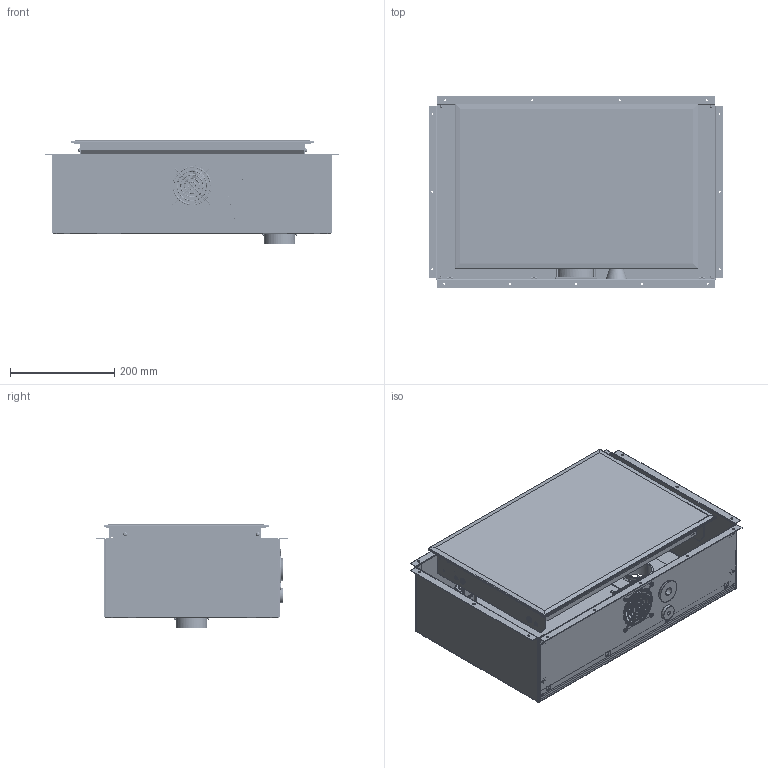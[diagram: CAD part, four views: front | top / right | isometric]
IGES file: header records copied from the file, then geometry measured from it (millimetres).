
Start section: Comment
Global section: file name: X100_mock_up_20080819.igs; native system:  By UGS Corp.; preprocessor: XPlus GENERIC/IGES 3.0; author: Author; organization: Title; date: 20080819.115707; units: millimetre
Bounding box: 565 x 366.5 x 198.1 mm (x, y, z)
Surface area: 1673767.8 mm2 (no closed solid volume)
Topology: 0 solids, 0 shells, 2059 faces, 11258 edges, 11246 vertices
Faces by surface type: bspline 2059
